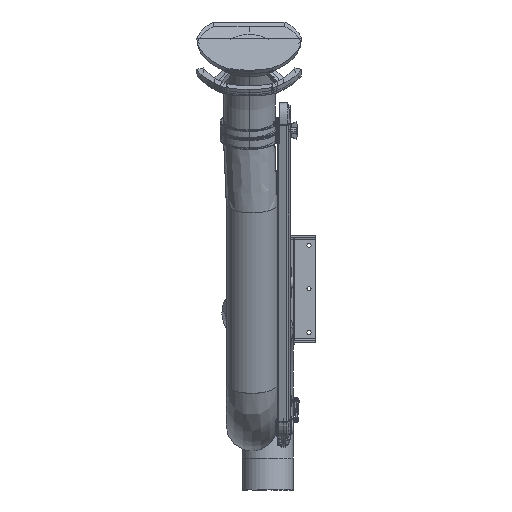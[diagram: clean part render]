
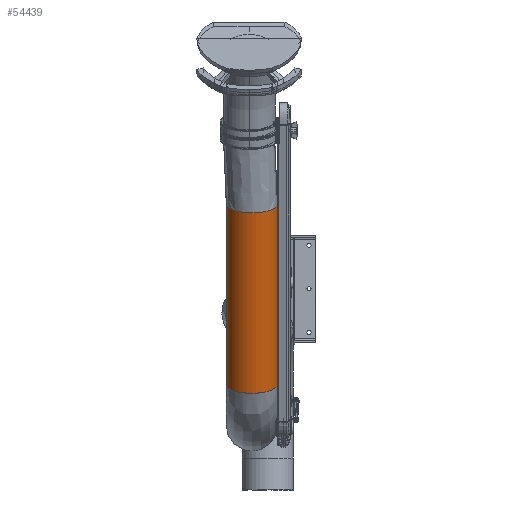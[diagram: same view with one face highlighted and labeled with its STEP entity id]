
A CAD part, front view. The second image highlights one B-rep face of the part: STEP entity #54439.
In plain terms, the highlighted free-form (B-spline) face has degree [3, 3] with [7, 6] control points.
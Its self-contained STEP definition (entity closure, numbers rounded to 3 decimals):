
#52528=CARTESIAN_POINT('',(-130.,0.,-275.));
#52529=CARTESIAN_POINT('',(-130.,0.,-341.667));
#52530=CARTESIAN_POINT('',(-130.,0.,-475.));
#52531=CARTESIAN_POINT('',(-130.,0.,-675.));
#52532=CARTESIAN_POINT('',(-130.,0.,-808.333));
#52533=CARTESIAN_POINT('',(-130.,0.,-875.));
#52538=CARTESIAN_POINT('',(-50.,0.,-275.));
#52539=DIRECTION('',(0.,0.,-1.));
#52540=DIRECTION('',(1.,0.,0.));
#52541=AXIS2_PLACEMENT_3D('',#52538,#52539,#52540);
#52546=CARTESIAN_POINT('',(30.,0.,-275.));
#52547=CARTESIAN_POINT('',(30.,0.,-341.667));
#52548=CARTESIAN_POINT('',(30.,0.,-475.));
#52549=CARTESIAN_POINT('',(30.,0.,-675.));
#52550=CARTESIAN_POINT('',(30.,0.,-808.333));
#52551=CARTESIAN_POINT('',(30.,0.,-875.));
#52556=CARTESIAN_POINT('',(-50.,0.,-875.));
#52557=DIRECTION('',(0.,0.,-1.));
#52558=DIRECTION('',(1.,0.,0.));
#52559=AXIS2_PLACEMENT_3D('',#52556,#52557,#52558);
#54076=CARTESIAN_POINT('',(30.,0.,-275.));
#54077=CARTESIAN_POINT('',(-130.,0.,-275.));
#54078=VERTEX_POINT('',#54076);
#54079=VERTEX_POINT('',#54077);
#54084=CARTESIAN_POINT('',(30.,0.,-875.));
#54085=CARTESIAN_POINT('',(-130.,0.,-875.));
#54086=VERTEX_POINT('',#54084);
#54087=VERTEX_POINT('',#54085);
#54389=CARTESIAN_POINT('',(29.842,5.023,-263.));
#54390=CARTESIAN_POINT('',(29.842,5.023,-267.));
#54391=CARTESIAN_POINT('',(29.842,5.023,-471.));
#54392=CARTESIAN_POINT('',(29.842,5.023,-679.));
#54393=CARTESIAN_POINT('',(29.842,5.023,-883.));
#54394=CARTESIAN_POINT('',(29.842,5.023,-887.));
#54395=CARTESIAN_POINT('',(32.933,-44.111,-263.));
#54396=CARTESIAN_POINT('',(32.933,-44.111,-267.));
#54397=CARTESIAN_POINT('',(32.933,-44.111,-471.));
#54398=CARTESIAN_POINT('',(32.933,-44.111,-679.));
#54399=CARTESIAN_POINT('',(32.933,-44.111,-883.));
#54400=CARTESIAN_POINT('',(32.933,-44.111,-887.));
#54401=CARTESIAN_POINT('',(-0.768,-80.,-263.));
#54402=CARTESIAN_POINT('',(-0.768,-80.,-267.));
#54403=CARTESIAN_POINT('',(-0.768,-80.,-471.));
#54404=CARTESIAN_POINT('',(-0.768,-80.,-679.));
#54405=CARTESIAN_POINT('',(-0.768,-80.,-883.));
#54406=CARTESIAN_POINT('',(-0.768,-80.,-887.));
#54407=CARTESIAN_POINT('',(-50.,-80.,-263.));
#54408=CARTESIAN_POINT('',(-50.,-80.,-267.));
#54409=CARTESIAN_POINT('',(-50.,-80.,-471.));
#54410=CARTESIAN_POINT('',(-50.,-80.,-679.));
#54411=CARTESIAN_POINT('',(-50.,-80.,-883.));
#54412=CARTESIAN_POINT('',(-50.,-80.,-887.));
#54413=CARTESIAN_POINT('',(-99.232,-80.,-263.));
#54414=CARTESIAN_POINT('',(-99.232,-80.,-267.));
#54415=CARTESIAN_POINT('',(-99.232,-80.,-471.));
#54416=CARTESIAN_POINT('',(-99.232,-80.,-679.));
#54417=CARTESIAN_POINT('',(-99.232,-80.,-883.));
#54418=CARTESIAN_POINT('',(-99.232,-80.,-887.));
#54419=CARTESIAN_POINT('',(-132.933,-44.111,-263.));
#54420=CARTESIAN_POINT('',(-132.933,-44.111,-267.));
#54421=CARTESIAN_POINT('',(-132.933,-44.111,-471.));
#54422=CARTESIAN_POINT('',(-132.933,-44.111,-679.));
#54423=CARTESIAN_POINT('',(-132.933,-44.111,-883.));
#54424=CARTESIAN_POINT('',(-132.933,-44.111,-887.));
#54425=CARTESIAN_POINT('',(-129.842,5.023,-263.));
#54426=CARTESIAN_POINT('',(-129.842,5.023,-267.));
#54427=CARTESIAN_POINT('',(-129.842,5.023,-471.));
#54428=CARTESIAN_POINT('',(-129.842,5.023,-679.));
#54429=CARTESIAN_POINT('',(-129.842,5.023,-883.));
#54430=CARTESIAN_POINT('',(-129.842,5.023,-887.));
#54431=(BOUNDED_SURFACE()B_SPLINE_SURFACE(3,3,((#54389,#54390,#54391,#54392,
#54393,#54394),(#54395,#54396,#54397,#54398,#54399,#54400),(#54401,#54402,
#54403,#54404,#54405,#54406),(#54407,#54408,#54409,#54410,#54411,#54412),
(#54413,#54414,#54415,#54416,#54417,#54418),(#54419,#54420,#54421,#54422,#54423,
#54424),(#54425,#54426,#54427,#54428,#54429,#54430)),.UNSPECIFIED.,.F.,.F.,.F.)B_SPLINE_SURFACE_WITH_KNOTS((4,3,4),(4,1,1,4),(0.,1.,2.),(-0.02,0.,1.,
1.02),.UNSPECIFIED.)GEOMETRIC_REPRESENTATION_ITEM()RATIONAL_B_SPLINE_SURFACE((
(1.187,1.187,1.187,1.187,
1.187,1.187),(0.938,0.938,
0.938,0.938,0.938,0.938),(
0.938,0.938,0.938,0.938,
0.938,0.938),(1.187,1.187,
1.187,1.187,1.187,1.187),(
0.938,0.938,0.938,0.938,
0.938,0.938),(0.938,0.938,
0.938,0.938,0.938,0.938),(
1.187,1.187,1.187,1.187,
1.187,1.187)))REPRESENTATION_ITEM('')SURFACE());
#54432=ORIENTED_EDGE('',*,*,#54236,.F.);
#54433=ORIENTED_EDGE('',*,*,#54377,.T.);
#54435=ORIENTED_EDGE('',*,*,#54434,.T.);
#54436=ORIENTED_EDGE('',*,*,#54373,.F.);
#54437=EDGE_LOOP('',(#54432,#54433,#54435,#54436));
#54438=FACE_OUTER_BOUND('',#54437,.F.);
#52534=B_SPLINE_CURVE_WITH_KNOTS('',3,(#52528,#52529,#52530,#52531,#52532,
#52533),.UNSPECIFIED.,.F.,.F.,(4,1,1,4),(0.,0.333,
0.667,1.),.UNSPECIFIED.);
#52542=CIRCLE('',#52541,80.);
#52552=B_SPLINE_CURVE_WITH_KNOTS('',3,(#52546,#52547,#52548,#52549,#52550,
#52551),.UNSPECIFIED.,.F.,.F.,(4,1,1,4),(0.,0.333,
0.667,1.),.UNSPECIFIED.);
#52560=CIRCLE('',#52559,80.);
#54236=EDGE_CURVE('',#54078,#54079,#52542,.T.);
#54373=EDGE_CURVE('',#54079,#54087,#52534,.T.);
#54377=EDGE_CURVE('',#54078,#54086,#52552,.T.);
#54434=EDGE_CURVE('',#54086,#54087,#52560,.T.);
#54439=ADVANCED_FACE('',(#54438),#54431,.T.);
